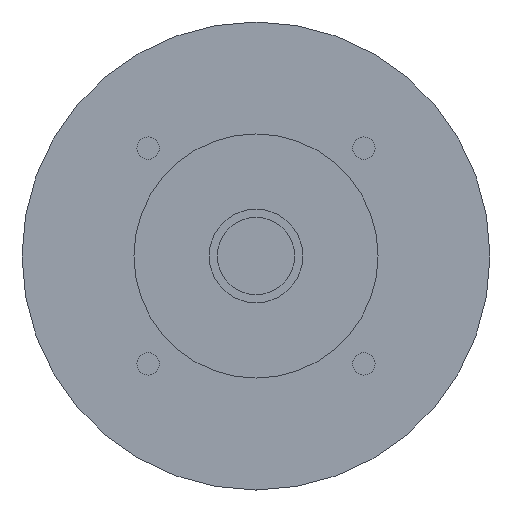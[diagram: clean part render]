
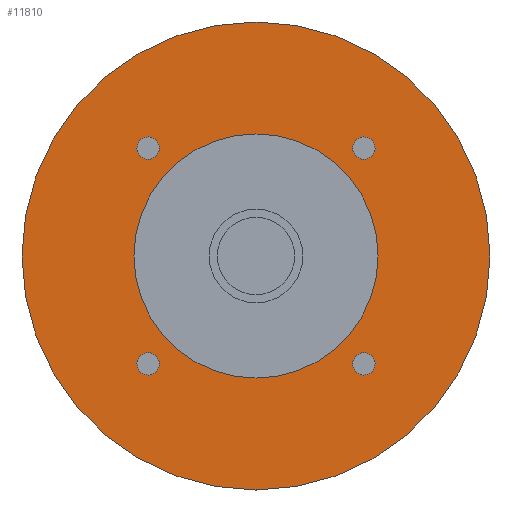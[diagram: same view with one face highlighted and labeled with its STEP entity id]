
A CAD part, left-side view. The second image highlights one B-rep face of the part: STEP entity #11810.
In plain terms, the highlighted planar face has unit normal (-1, 0, 0) as drawn and (0, 0, -1) by its records, which use the part's own axes.
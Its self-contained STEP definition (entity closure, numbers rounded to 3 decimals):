
#9120=CARTESIAN_POINT('',(30.,0.,-47.));
#9130=VERTEX_POINT('',#9120);
#9160=CARTESIAN_POINT('',(0.,0.,-47.
));
#9170=DIRECTION('',(0.,0.,1.));
#9180=DIRECTION('',(1.,0.,0.));
#9190=AXIS2_PLACEMENT_3D('',#9160,#9170,#9180);
#9200=CIRCLE('',#9190,30.);
#9210=CARTESIAN_POINT('',(-30.,0.,-47.));
#9220=VERTEX_POINT('',#9210);
#9230=EDGE_CURVE('',#9130,#9220,#9200,.T.);
#10830=CARTESIAN_POINT('',(-23.767,-26.517,-47.));
#10840=VERTEX_POINT('',#10830);
#10870=CARTESIAN_POINT('',(-26.517,-26.517,-47.));
#10880=DIRECTION('',(0.,0.,1.));
#10890=DIRECTION('',(-1.,0.,0.));
#10900=AXIS2_PLACEMENT_3D('',#10870,#10880,#10890);
#10910=CIRCLE('',#10900,2.75);
#10920=CARTESIAN_POINT('',(-29.267,-26.517,-47.));
#10930=VERTEX_POINT('',#10920);
#10940=EDGE_CURVE('',#10840,#10930,#10910,.T.);
#11060=CARTESIAN_POINT('',(43.75,0.,-47.));
#11070=DIRECTION('',(0.,0.,-1.));
#11080=DIRECTION('',(1.,0.,0.));
#11090=AXIS2_PLACEMENT_3D('',#11060,#11070,#11080);
#11100=PLANE('',#11090);
#11110=ORIENTED_EDGE('',*,*,#9230,.T.);
#11120=EDGE_CURVE('',#9220,#9130,#9200,.T.);
#11130=ORIENTED_EDGE('',*,*,#11120,.T.);
#11140=EDGE_LOOP('',(#11130,#11110));
#11150=FACE_BOUND('',#11140,.T.);
#11160=CARTESIAN_POINT('',(0.,0.,
-47.));
#11170=DIRECTION('',(0.,0.,1.));
#11180=DIRECTION('',(1.,0.,0.));
#11190=AXIS2_PLACEMENT_3D('',#11160,#11170,#11180);
#11200=CIRCLE('',#11190,57.5);
#11210=CARTESIAN_POINT('',(57.5,0.,-47.));
#11220=VERTEX_POINT('',#11210);
#11230=CARTESIAN_POINT('',(-57.5,0.,-47.));
#11240=VERTEX_POINT('',#11230);
#11250=EDGE_CURVE('',#11220,#11240,#11200,.T.);
#11260=ORIENTED_EDGE('',*,*,#11250,.F.);
#11270=EDGE_CURVE('',#11240,#11220,#11200,.T.);
#11280=ORIENTED_EDGE('',*,*,#11270,.F.);
#11290=EDGE_LOOP('',(#11280,#11260));
#11300=FACE_OUTER_BOUND('',#11290,.T.);
#11310=CARTESIAN_POINT('',(26.517,-26.517,-47.));
#11320=DIRECTION('',(0.,0.,1.));
#11330=DIRECTION('',(-1.,0.,0.));
#11340=AXIS2_PLACEMENT_3D('',#11310,#11320,#11330);
#11350=CIRCLE('',#11340,2.75);
#11360=CARTESIAN_POINT('',(23.767,-26.517,-47.));
#11370=VERTEX_POINT('',#11360);
#11380=CARTESIAN_POINT('',(29.267,-26.517,-47.));
#11390=VERTEX_POINT('',#11380);
#11400=EDGE_CURVE('',#11370,#11390,#11350,.T.);
#11410=ORIENTED_EDGE('',*,*,#11400,.T.);
#11420=EDGE_CURVE('',#11390,#11370,#11350,.T.);
#11430=ORIENTED_EDGE('',*,*,#11420,.T.);
#11440=EDGE_LOOP('',(#11430,#11410));
#11450=FACE_BOUND('',#11440,.T.);
#11460=EDGE_CURVE('',#10930,#10840,#10910,.T.);
#11470=ORIENTED_EDGE('',*,*,#11460,.T.);
#11480=ORIENTED_EDGE('',*,*,#10940,.T.);
#11490=EDGE_LOOP('',(#11480,#11470));
#11500=FACE_BOUND('',#11490,.T.);
#11510=CARTESIAN_POINT('',(-26.517,26.517,-47.));
#11520=DIRECTION('',(0.,0.,1.));
#11530=DIRECTION('',(-1.,0.,0.));
#11540=AXIS2_PLACEMENT_3D('',#11510,#11520,#11530);
#11550=CIRCLE('',#11540,2.75);
#11560=CARTESIAN_POINT('',(-29.267,26.517,-47.));
#11570=VERTEX_POINT('',#11560);
#11580=CARTESIAN_POINT('',(-23.767,26.517,-47.));
#11590=VERTEX_POINT('',#11580);
#11600=EDGE_CURVE('',#11570,#11590,#11550,.T.);
#11610=ORIENTED_EDGE('',*,*,#11600,.T.);
#11620=EDGE_CURVE('',#11590,#11570,#11550,.T.);
#11630=ORIENTED_EDGE('',*,*,#11620,.T.);
#11640=EDGE_LOOP('',(#11630,#11610));
#11650=FACE_BOUND('',#11640,.T.);
#11660=CARTESIAN_POINT('',(26.517,26.517,-47.));
#11670=DIRECTION('',(0.,0.,1.));
#11680=DIRECTION('',(-1.,0.,0.));
#11690=AXIS2_PLACEMENT_3D('',#11660,#11670,#11680);
#11700=CIRCLE('',#11690,2.75);
#11710=CARTESIAN_POINT('',(23.767,26.517,-47.));
#11720=VERTEX_POINT('',#11710);
#11730=CARTESIAN_POINT('',(29.267,26.517,-47.));
#11740=VERTEX_POINT('',#11730);
#11750=EDGE_CURVE('',#11720,#11740,#11700,.T.);
#11760=ORIENTED_EDGE('',*,*,#11750,.T.);
#11770=EDGE_CURVE('',#11740,#11720,#11700,.T.);
#11780=ORIENTED_EDGE('',*,*,#11770,.T.);
#11790=EDGE_LOOP('',(#11780,#11760));
#11800=FACE_BOUND('',#11790,.T.);
#11810=ADVANCED_FACE('',(#11150,#11300,#11450,#11500,#11650,#11800),
#11100,.T.);
